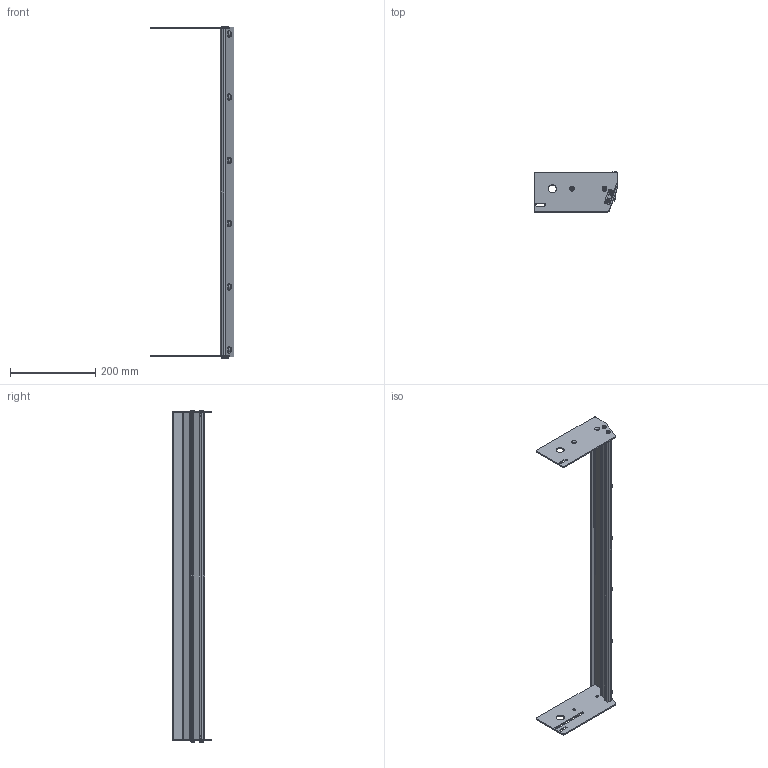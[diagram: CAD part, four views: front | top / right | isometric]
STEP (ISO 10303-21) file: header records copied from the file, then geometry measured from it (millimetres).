
FILE_DESCRIPTION((''),'2;1');
FILE_NAME('351199-30_ASM','2023-03-15T',('jenni.wallner'),(''),'PRO/ENGINEER BY PARAMETRIC TECHNOLOGY CORPORATION, 2012420','PRO/ENGINEER BY PARAMETRIC TECHNOLOGY CORPORATION, 2012420','');
FILE_SCHEMA(('CONFIG_CONTROL_DESIGN'));
Length unit declared in the file: inch
Products named in the file (10): 9505XXM_950512M; 351203-WW_351203-30; 605279P; 9506XXM_950612M; 990603M; 351202-WW_351202-30; 351200_DEFAULT_AS_MACHINED_; 351201; ASM0001_ASM; 351199-30_ASM
Assembly tree (27 placements, depth 3):
  351199-30_ASM
    ASM0001_ASM
      9505XXM_950512M  x4
      351203-WW_351203-30
      605279P  x6
      9506XXM_950612M  x6
      990603M  x6
      351202-WW_351202-30
      351200_DEFAULT_AS_MACHINED_
      351201
Bounding box: 196.11 x 93.08 x 781.09 mm (x, y, z)
Volume: 411914.6 mm3; surface area: 335316 mm2
Topology: 26 solids, 26 shells, 501 faces, 1181 edges, 752 vertices
Faces by surface type: plane 230, cylinder 171, cone 100
Entity records: 8398 total; most frequent: DIRECTION 1524, CARTESIAN_POINT 1522, ORIENTED_EDGE 1308, EDGE_CURVE 654, AXIS2_PLACEMENT_3D 577, VERTEX_POINT 428, VECTOR 370, LINE 370
